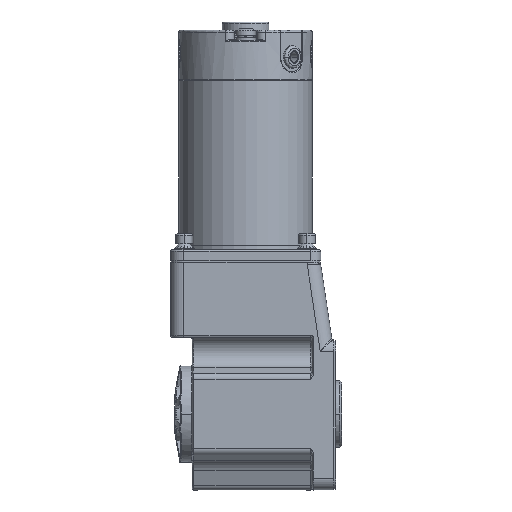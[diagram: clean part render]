
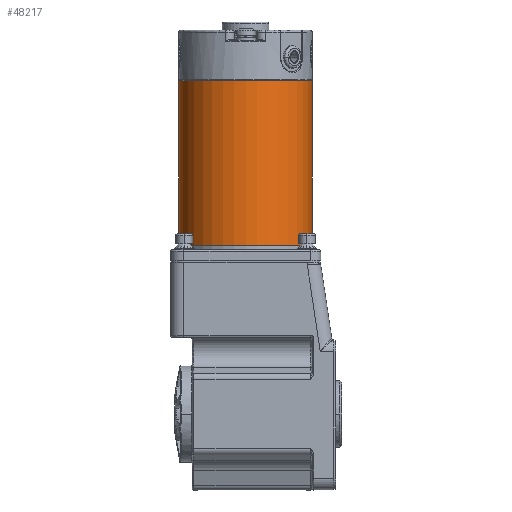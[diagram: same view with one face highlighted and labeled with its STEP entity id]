
A CAD part, left-side view. The second image highlights one B-rep face of the part: STEP entity #48217.
In plain terms, the highlighted cylindrical face has radius 40 mm (diameter 80 mm), a partial arc.
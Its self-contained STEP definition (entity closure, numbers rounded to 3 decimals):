
#222 = VERTEX_POINT ( 'NONE', #81376 ) ;
#4039 = CIRCLE ( 'NONE', #38899, 40. ) ;
#8033 = EDGE_CURVE ( 'NONE', #74916, #222, #68666, .T. ) ;
#12407 = VECTOR ( 'NONE', #28039, 1000. ) ;
#12859 = CARTESIAN_POINT ( 'NONE',  ( 0., 0., 0. ) ) ;
#13315 = DIRECTION ( 'NONE',  ( 0., 1., 0. ) ) ;
#13703 = EDGE_CURVE ( 'NONE', #69159, #75615, #4039, .T. ) ;
#16258 = CARTESIAN_POINT ( 'NONE',  ( 0., 98.7, -40. ) ) ;
#16863 = ORIENTED_EDGE ( 'NONE', *, *, #66073, .T. ) ;
#19086 = CARTESIAN_POINT ( 'NONE',  ( 0., 98.7, 0. ) ) ;
#21048 = DIRECTION ( 'NONE',  ( 0., 1., 0. ) ) ;
#22185 = VECTOR ( 'NONE', #36671, 1000. ) ;
#27185 = ORIENTED_EDGE ( 'NONE', *, *, #29379, .T. ) ;
#28039 = DIRECTION ( 'NONE',  ( 0., 1., 0. ) ) ;
#29379 = EDGE_CURVE ( 'NONE', #222, #59591, #76429, .T. ) ;
#33566 = ORIENTED_EDGE ( 'NONE', *, *, #85322, .F. ) ;
#34240 = CYLINDRICAL_SURFACE ( 'NONE', #57539, 40. ) ;
#36671 = DIRECTION ( 'NONE',  ( 0., 1., 0. ) ) ;
#36958 = DIRECTION ( 'NONE',  ( 0., 0., 1. ) ) ;
#37287 = AXIS2_PLACEMENT_3D ( 'NONE', #64562, #21048, #76415 ) ;
#38899 = AXIS2_PLACEMENT_3D ( 'NONE', #19086, #47220, #74886 ) ;
#39516 = CARTESIAN_POINT ( 'NONE',  ( 0., 0., 40. ) ) ;
#41092 = DIRECTION ( 'NONE',  ( 0., 1., 0. ) ) ;
#42436 = CARTESIAN_POINT ( 'NONE',  ( 0., 0.3, 0. ) ) ;
#45590 = CARTESIAN_POINT ( 'NONE',  ( 0., 98.7, 40. ) ) ;
#47220 = DIRECTION ( 'NONE',  ( 0., -1., 0. ) ) ;
#48217 = ADVANCED_FACE ( 'NONE', ( #67809 ), #34240, .T. ) ;
#48810 = ORIENTED_EDGE ( 'NONE', *, *, #8033, .T. ) ;
#51598 = EDGE_LOOP ( 'NONE', ( #27185, #16863, #56593, #33566, #48810 ) ) ;
#53923 = LINE ( 'NONE', #86553, #22185 ) ;
#56134 = LINE ( 'NONE', #39516, #12407 ) ;
#56276 = CARTESIAN_POINT ( 'NONE',  ( 0., 0.3, 40. ) ) ;
#56593 = ORIENTED_EDGE ( 'NONE', *, *, #13703, .T. ) ;
#57539 = AXIS2_PLACEMENT_3D ( 'NONE', #12859, #13315, #89148 ) ;
#59404 = CARTESIAN_POINT ( 'NONE',  ( 0., 0.3, -40. ) ) ;
#59591 = VERTEX_POINT ( 'NONE', #59404 ) ;
#64562 = CARTESIAN_POINT ( 'NONE',  ( 0., 0.3, 0. ) ) ;
#66073 = EDGE_CURVE ( 'NONE', #59591, #69159, #53923, .T. ) ;
#67809 = FACE_OUTER_BOUND ( 'NONE', #51598, .T. ) ;
#68666 = CIRCLE ( 'NONE', #86107, 40. ) ;
#69159 = VERTEX_POINT ( 'NONE', #16258 ) ;
#74886 = DIRECTION ( 'NONE',  ( 0., 0., 1. ) ) ;
#74916 = VERTEX_POINT ( 'NONE', #56276 ) ;
#75615 = VERTEX_POINT ( 'NONE', #45590 ) ;
#76415 = DIRECTION ( 'NONE',  ( 0., 0., 1. ) ) ;
#76429 = CIRCLE ( 'NONE', #37287, 40. ) ;
#81376 = CARTESIAN_POINT ( 'NONE',  ( 40., 0.3, 0. ) ) ;
#85322 = EDGE_CURVE ( 'NONE', #74916, #75615, #56134, .T. ) ;
#86107 = AXIS2_PLACEMENT_3D ( 'NONE', #42436, #41092, #36958 ) ;
#86553 = CARTESIAN_POINT ( 'NONE',  ( 0., 0., -40. ) ) ;
#89148 = DIRECTION ( 'NONE',  ( 0., 0., 1. ) ) ;
